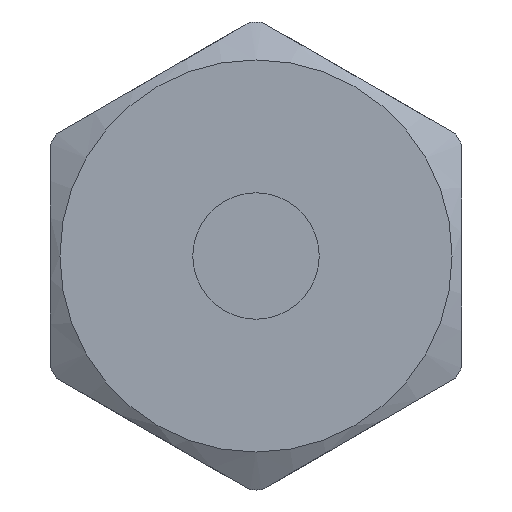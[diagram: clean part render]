
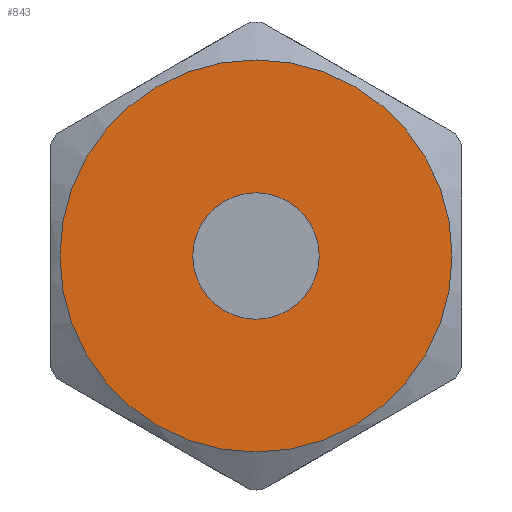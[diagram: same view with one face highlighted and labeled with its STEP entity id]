
A CAD part, left-side view. The second image highlights one B-rep face of the part: STEP entity #843.
In plain terms, the highlighted planar face has unit normal (-1, 0, 0).
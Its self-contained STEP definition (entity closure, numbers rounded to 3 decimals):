
#807=CARTESIAN_POINT('',(-11.5,0.,-0.));
#808=DIRECTION('',(-1.,0.,-0.));
#809=DIRECTION('',(-0.,0.,1.));
#810=AXIS2_PLACEMENT_3D('',#807,#808,#809);
#811=PLANE('',#810);
#812=CARTESIAN_POINT('',(-11.5,-0.,2.));
#813=VERTEX_POINT('',#812);
#814=CARTESIAN_POINT('',(-11.5,0.,-0.));
#815=DIRECTION('',(-1.,0.,0.));
#816=DIRECTION('',(0.,0.,1.));
#817=AXIS2_PLACEMENT_3D('',#814,#815,#816);
#818=CIRCLE('',#817,2.);
#819=EDGE_CURVE('',#813,#813,#818,.T.);
#820=ORIENTED_EDGE('',*,*,#819,.F.);
#821=EDGE_LOOP('',(#820));
#822=FACE_BOUND('',#821,.T.);
#823=CARTESIAN_POINT('',(-11.5,-0.,6.2));
#824=VERTEX_POINT('',#823);
#825=CARTESIAN_POINT('',(-11.5,0.,-6.2));
#826=VERTEX_POINT('',#825);
#827=CARTESIAN_POINT('',(-11.5,0.,-0.));
#828=DIRECTION('',(-1.,0.,0.));
#829=DIRECTION('',(0.,0.,1.));
#830=AXIS2_PLACEMENT_3D('',#827,#828,#829);
#831=CIRCLE('',#830,6.2);
#832=EDGE_CURVE('',#824,#826,#831,.T.);
#833=ORIENTED_EDGE('',*,*,#832,.T.);
#834=CARTESIAN_POINT('',(-11.5,0.,-0.));
#835=DIRECTION('',(-1.,0.,0.));
#836=DIRECTION('',(0.,0.,1.));
#837=AXIS2_PLACEMENT_3D('',#834,#835,#836);
#838=CIRCLE('',#837,6.2);
#839=EDGE_CURVE('',#826,#824,#838,.T.);
#840=ORIENTED_EDGE('',*,*,#839,.T.);
#841=EDGE_LOOP('',(#833,#840));
#842=FACE_BOUND('',#841,.T.);
#843=ADVANCED_FACE('',(#822,#842),#811,.T.);
